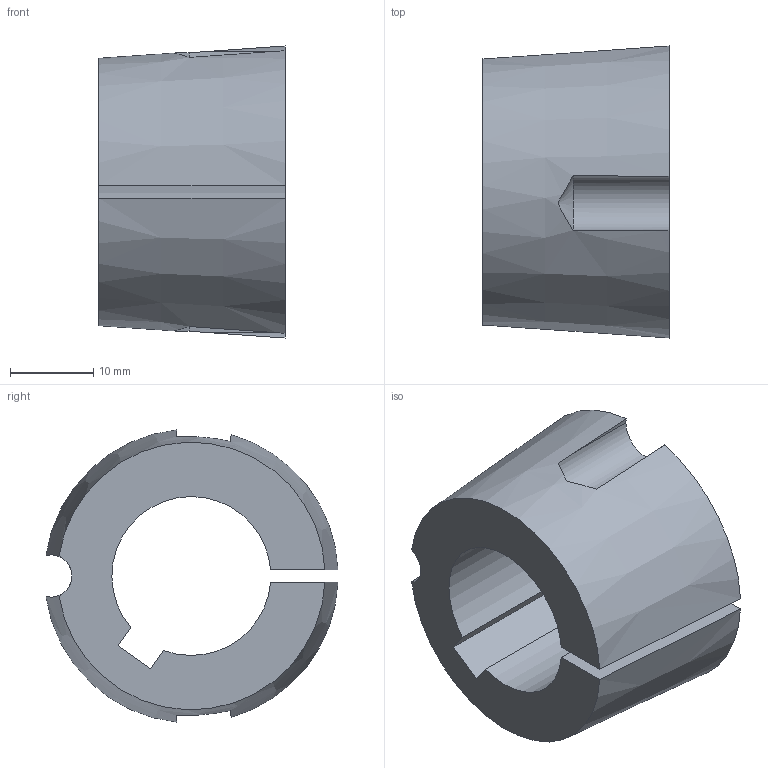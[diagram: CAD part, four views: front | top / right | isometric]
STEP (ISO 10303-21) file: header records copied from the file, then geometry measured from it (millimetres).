
FILE_DESCRIPTION( ( '' ), '1' );
FILE_NAME( 'C:/Users/StangenbergN/Desktop/06.02.2019_steps/6225011905.stp', '2019-02-06T19:53:07', ( '' ), ( '' ), ' ', ' ', ' ' );
FILE_SCHEMA( ( 'CONFIG_CONTROL_DESIGN' ) );
Length unit declared in the file: millimetre
Products named in the file (1): 1
Bounding box: 22.3 x 35.01 x 35.02 mm (x, y, z)
Volume: 12318.5 mm3; surface area: 5341.4 mm2
Topology: 1 solids, 1 shells, 22 faces, 60 edges, 40 vertices
Faces by surface type: cylinder 11, plane 7, cone 4
Entity records: 834 total; most frequent: CARTESIAN_POINT 235, ORIENTED_EDGE 120, DIRECTION 116, EDGE_CURVE 60, AXIS2_PLACEMENT_3D 47, VERTEX_POINT 40, CIRCLE 24, ADVANCED_FACE 22
